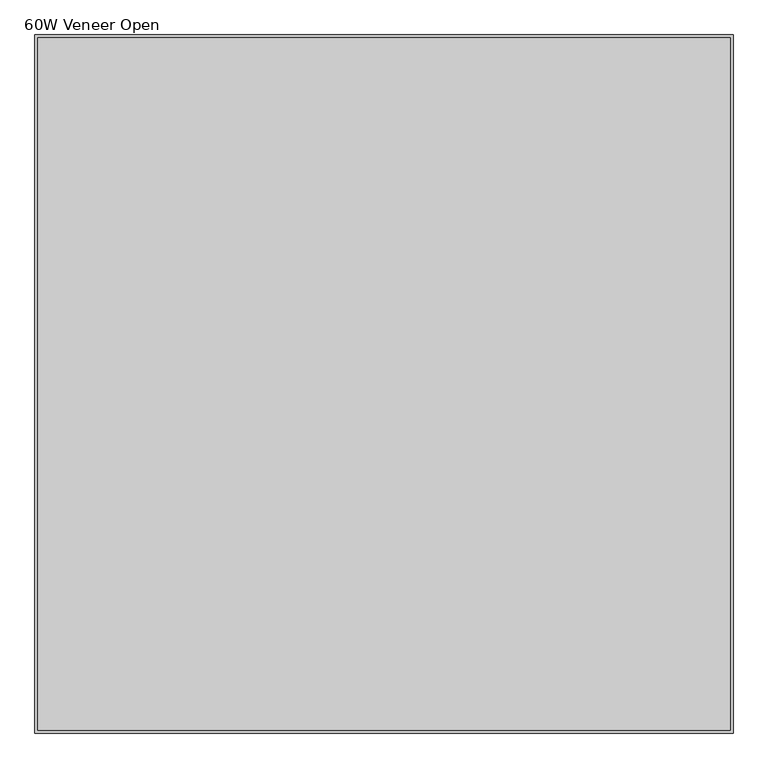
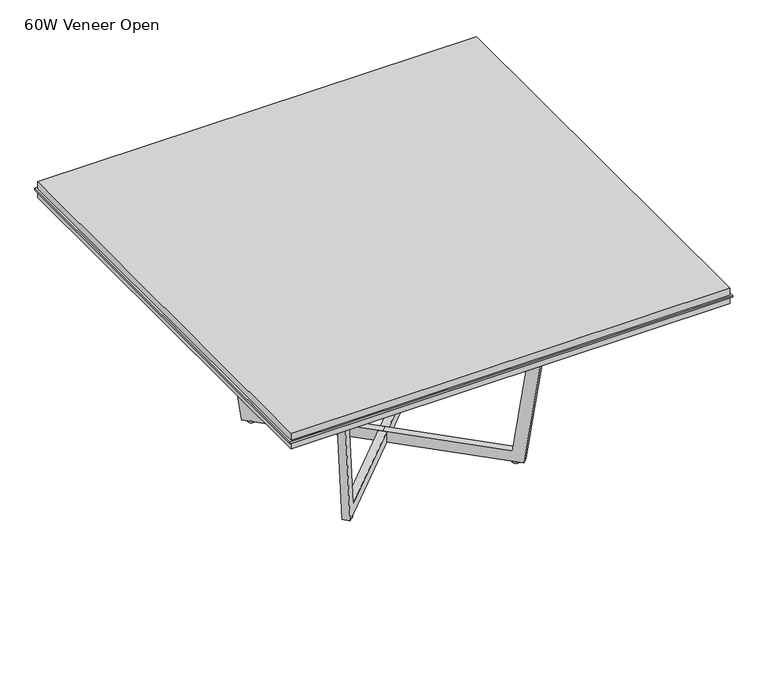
"""IFC4 building model written with IfcOpenShell, lengths in millimetres: furniture geometry, Knoll_Datesweiser_Tables_Meeting_Highline_Square : 60W Veneer Open."""

from ifc_helpers import new_model, si_unit, point, frame, frame_2d, origin, origin_with_axes, place, context, project, spatial, polyline, circle_curve, trimmed, segment, composite_curve, outline, extrude, source, transform, mapped, element, save


def furniture_60w_veneer_open_b4f83601(model_context):
    return source(origin(), model_context, "Body", "SweptSolid", [
        extrude(outline(polyline([(762.0, 762.0), (762.0, -762.0), (-762.0, -762.0), (-762.0, 762.0), (762.0, 762.0)])), frame((0.0, 0.0, 698.5), z_axis=(0.0, 0.0, 1.0), x_axis=(1.0, 0.0, 0.0)), (0.0, 0.0, 1.0), 25.4),
        extrude(outline(polyline([(762.0, 762.0), (762.0, -762.0), (-762.0, -762.0), (-762.0, 762.0), (762.0, 762.0)])), frame((0.0, 0.0, 730.25), z_axis=(0.0, 0.0, 1.0), x_axis=(1.0, 0.0, 0.0)), (0.0, 0.0, 1.0), 25.4),
        extrude(outline(polyline([(768.35, 768.35), (768.35, -768.35), (-768.35, -768.35), (-768.35, 768.35), (768.35, 768.35)])), frame((0.0, 0.0, 723.9), z_axis=(0.0, 0.0, 1.0), x_axis=(1.0, 0.0, 0.0)), (0.0, 0.0, 1.0), 6.35),
        extrude(outline(composite_curve([segment(trimmed(circle_curve(frame_2d((-291.4942533, -291.4942533)), 12.7), [point((-278.7942533, -291.4942533))], [point((-304.1942533, -291.4942533))], False, "CARTESIAN"), True, "CONTINUOUS"), segment(trimmed(circle_curve(frame_2d((-291.4942533, -291.4942533)), 12.7), [point((-304.1942533, -291.4942533))], [point((-278.7942533, -291.4942533))], False, "CARTESIAN"), True, "CONTINUOUS")], self_intersect=False)), origin_with_axes(), (0.0, 0.0, 1.0), 5.9867797),
        extrude(outline(composite_curve([segment(trimmed(circle_curve(frame_2d((-291.4942533, 291.4942533)), 12.7), [point((-278.7942533, 291.4942533))], [point((-304.1942533, 291.4942533))], False, "CARTESIAN"), True, "CONTINUOUS"), segment(trimmed(circle_curve(frame_2d((-291.4942533, 291.4942533)), 12.7), [point((-304.1942533, 291.4942533))], [point((-278.7942533, 291.4942533))], False, "CARTESIAN"), True, "CONTINUOUS")], self_intersect=False)), origin_with_axes(), (0.0, 0.0, 1.0), 5.9867797),
        extrude(outline(composite_curve([segment(trimmed(circle_curve(frame_2d((291.4942533, -291.4942533)), 12.7), [point((304.1942533, -291.4942533))], [point((278.7942533, -291.4942533))], False, "CARTESIAN"), True, "CONTINUOUS"), segment(trimmed(circle_curve(frame_2d((291.4942533, -291.4942533)), 12.7), [point((278.7942533, -291.4942533))], [point((304.1942533, -291.4942533))], False, "CARTESIAN"), True, "CONTINUOUS")], self_intersect=False)), origin_with_axes(), (0.0, 0.0, 1.0), 5.9867797),
        extrude(outline(composite_curve([segment(trimmed(circle_curve(frame_2d((291.4942533, 291.4942533)), 12.7), [point((304.1942533, 291.4942533))], [point((278.7942533, 291.4942533))], False, "CARTESIAN"), True, "CONTINUOUS"), segment(trimmed(circle_curve(frame_2d((291.4942533, 291.4942533)), 12.7), [point((278.7942533, 291.4942533))], [point((304.1942533, 291.4942533))], False, "CARTESIAN"), True, "CONTINUOUS")], self_intersect=False)), origin_with_axes(), (0.0, 0.0, 1.0), 5.9867797),
        extrude(outline(polyline([(-439.4001671, 0.0), (0.0, 0.0), (96.4493631, -692.7824981), (56.1900883, -692.7303535), (-34.9340039, -38.198535), (-439.448964, -37.6745992), (-843.9639241, -37.1506634), (-936.7832328, -691.4442349), (-977.0425076, -691.3920902), (-878.7988599, 1.1382376), (-439.4001671, 0.0)])), frame((301.7223211, -319.6828333, 5.8430302), z_axis=(0.7071067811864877, 0.7071067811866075, 0.0), x_axis=(0.7071061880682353, -0.7071061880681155, -0.001295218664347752)), (0.0, 0.0, 1.0), 25.4),
        extrude(outline(polyline([(439.4001671, 0.0), (878.7988599, 1.1382376), (977.0425076, -691.3920902), (936.7832328, -691.4442349), (843.9639241, -37.1506634), (439.448964, -37.6745992), (34.9340039, -38.198535), (-56.1900883, -692.7303535), (-96.4493631, -692.7824981), (0.0, 0.0), (439.4001671, 0.0)])), frame((-301.7223211, -319.6828333, 5.8430302), z_axis=(-0.707106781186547, 0.7071067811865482, 0.0), x_axis=(0.7071061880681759, 0.7071061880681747, 0.0012952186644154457)), (0.0, 0.0, 1.0), 25.4),
    ])


if __name__ == "__main__":
    model = new_model("IFC4")
    model_context = context("Model", 3, world=origin())
    ifc_project = project(units=[si_unit("LENGTHUNIT", "METRE", prefix="MILLI")], contexts=[model_context])
    site = spatial("IfcSite", under=ifc_project)
    building = spatial("IfcBuilding", under=site)
    placement = place(None, origin())
    furniture_60w_veneer_open_shape = furniture_60w_veneer_open_b4f83601(model_context)
    element("IfcFurniture", 1, ObjectType="Knoll_Datesweiser_Tables_Meeting_Highline_Square : 60W Veneer Open", at=placement, inside=building, context=model_context, shape_type="MappedRepresentation", body=[
        mapped(furniture_60w_veneer_open_shape, transform((0.0, 0.0, 0.0), x_axis=(1.0, 0.0, 0.0), y_axis=(0.0, 1.0, 0.0), z_axis=(0.0, 0.0, 1.0))),
    ])
    save(model, "model.ifc")
